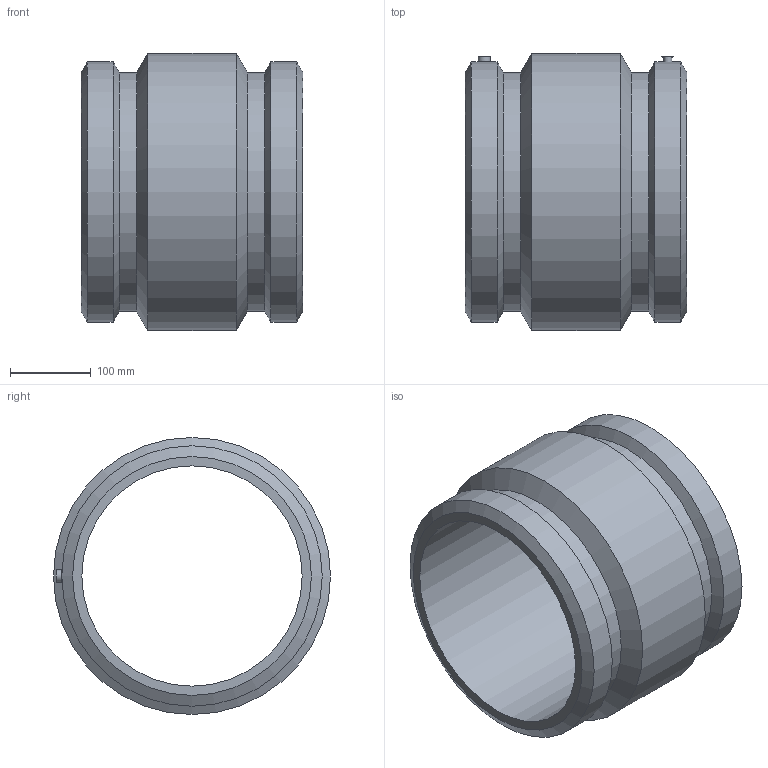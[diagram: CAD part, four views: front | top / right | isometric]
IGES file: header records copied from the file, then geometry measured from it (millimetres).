
Global section: file name: 5901D004100.ipt; native system: Autodesk Inventor 2019; preprocessor: unknown; author: KIM; date: 20210830.100927; units: inch
Bounding box: 274.32 x 342.9 x 342.9 mm (x, y, z)
Volume: 6740218 mm3; surface area: 594656.7 mm2
Topology: 1 solids, 2 shells, 28 faces, 56 edges, 36 vertices
Faces by surface type: cylinder 9, plane 8, cone 6, revolution 3, bspline 2
Full cylindrical faces by diameter (mm): 4 x2, 15 x2, 295.493 x2, 322.356 x2, 342.9 x1
